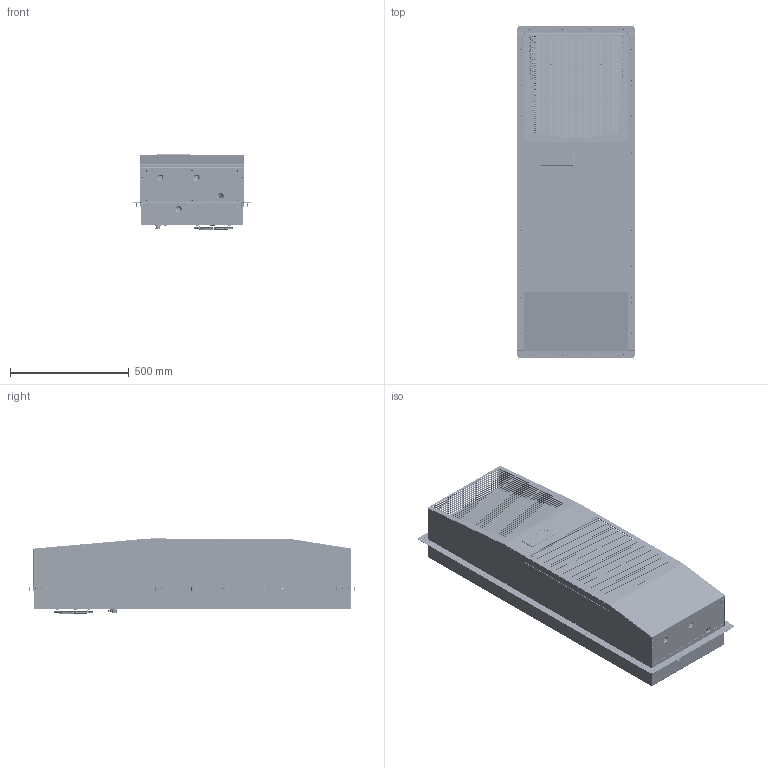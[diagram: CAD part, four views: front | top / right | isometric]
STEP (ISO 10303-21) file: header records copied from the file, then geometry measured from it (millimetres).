
FILE_DESCRIPTION (( 'STEP AP203' ), '1' );
FILE_NAME ('g520816g101.STEP', '2013-04-12T16:53:26', ( 'User' ), ( 'Pentair Inc' ), 'SwSTEP 2.0', 'SolidWorks 2010', '' );
FILE_SCHEMA (( 'CONFIG_CONTROL_DESIGN' ));
Length unit declared in the file: inch
Products named in the file (30): g520816g101; 89083107; 10-1061-16; 10-1002-455; 52-6144-00; 38-2023-12; 52-6231-05; 89084907; 52-6232-05; 89084905; H60832006EB; 52-6230-05; 89084906; 10-1014-201; 89078937; 52-6010-11; 89100482; 89100483; 89100484; 89100485; 89098960; 89098959; 10-1097-03_AS USED; 89096884; 10-1131-10; 52-6010-27; 10-1091-123; 52-6221-00; 89100930; 13-1014-02
Assembly tree (78 placements, depth 3):
  g520816g101
    52-6230-05  x2
      10-1014-201
      89084906
    52-6221-00
    10-1061-16
    52-6232-05
      H60832006EB  x2
      89084905
      10-1014-201  x4
    52-6144-00
    10-1091-123
    89100930
    10-1002-455
    89083107
    52-6010-11
    89096884
    52-6010-27
    38-2023-12
    10-1131-10
    52-6231-05
      10-1014-201  x4
      89084907
      H60832006EB  x2
    89078937
    89100482
      89100484
      10-1097-03_AS USED  x30
      89100483
      89098959
      89100485
      89098960
    13-1014-02
Bounding box: 496.06 x 1398.47 x 317.28 mm (x, y, z)
Volume: 18103506.1 mm3; surface area: 8524365.6 mm2
Topology: 99 solids, 123 shells, 9544 faces, 24618 edges, 15715 vertices
Faces by surface type: plane 5389, cylinder 2125, torus 1057, bspline 581, cone 392
Full cylindrical faces by diameter (mm): 9.525 x22
Entity records: 281350 total; most frequent: CARTESIAN_POINT 66098, ORIENTED_EDGE 43758, DIRECTION 43234, EDGE_CURVE 21901, LINE 15118, VECTOR 15118, VERTEX_POINT 14075, AXIS2_PLACEMENT_3D 14058
